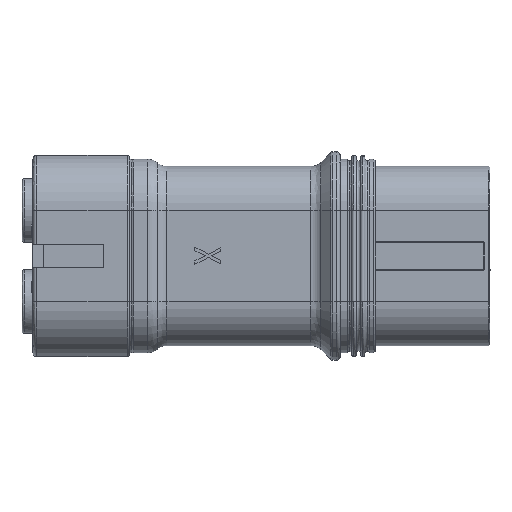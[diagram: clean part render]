
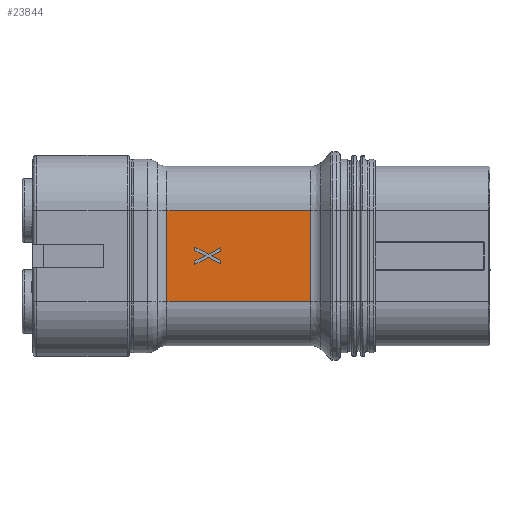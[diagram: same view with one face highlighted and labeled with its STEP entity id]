
A CAD part, left-side view. The second image highlights one B-rep face of the part: STEP entity #23844.
In plain terms, the highlighted planar face has unit normal (-1, 0, 0).
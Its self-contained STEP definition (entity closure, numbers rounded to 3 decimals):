
#103 = DIRECTION ( 'NONE',  ( 0., 0., -1. ) ) ;
#170 = CARTESIAN_POINT ( 'NONE',  ( -16.997, 38.977, -0.568 ) ) ;
#286 = DIRECTION ( 'NONE',  ( 0., 0.906, 0.424 ) ) ;
#548 = VERTEX_POINT ( 'NONE', #18449 ) ;
#574 = DIRECTION ( 'NONE',  ( 0., 0., -1. ) ) ;
#603 = EDGE_CURVE ( 'NONE', #20843, #4244, #12912, .T. ) ;
#865 = LINE ( 'NONE', #14750, #7441 ) ;
#1553 = VECTOR ( 'NONE', #286, 1000. ) ;
#1794 = EDGE_CURVE ( 'NONE', #19304, #2044, #23932, .T. ) ;
#2044 = VERTEX_POINT ( 'NONE', #17217 ) ;
#2201 = CARTESIAN_POINT ( 'NONE',  ( -16.997, 42.477, -1.161 ) ) ;
#2237 = VECTOR ( 'NONE', #103, 1000. ) ;
#2442 = CARTESIAN_POINT ( 'NONE',  ( -16.997, 46.289, -6.25 ) ) ;
#2987 = EDGE_CURVE ( 'NONE', #9734, #27642, #865, .T. ) ;
#3196 = VECTOR ( 'NONE', #31067, 1000. ) ;
#3767 = CARTESIAN_POINT ( 'NONE',  ( -16.997, 38.977, -6.25 ) ) ;
#4244 = VERTEX_POINT ( 'NONE', #14128 ) ;
#4259 = ORIENTED_EDGE ( 'NONE', *, *, #12428, .F. ) ;
#4277 = LINE ( 'NONE', #33371, #11753 ) ;
#4520 = CARTESIAN_POINT ( 'NONE',  ( -16.997, 42.477, 0.722 ) ) ;
#5415 = LINE ( 'NONE', #7433, #34417 ) ;
#5438 = DIRECTION ( 'NONE',  ( 0., -0.9, -0.437 ) ) ;
#5607 = CARTESIAN_POINT ( 'NONE',  ( -16.997, 40.635, -0.199 ) ) ;
#5716 = CARTESIAN_POINT ( 'NONE',  ( -16.997, 41.044, 0.026 ) ) ;
#5798 = PLANE ( 'NONE',  #16411 ) ;
#5918 = DIRECTION ( 'NONE',  ( 1., 0., 0. ) ) ;
#6301 = CARTESIAN_POINT ( 'NONE',  ( -16.997, 46.289, 6.25 ) ) ;
#6589 = VECTOR ( 'NONE', #574, 1000. ) ;
#7306 = LINE ( 'NONE', #3767, #21416 ) ;
#7433 = CARTESIAN_POINT ( 'NONE',  ( -16.997, 63.117, -6.25 ) ) ;
#7441 = VECTOR ( 'NONE', #17596, 1000. ) ;
#7792 = ORIENTED_EDGE ( 'NONE', *, *, #13450, .F. ) ;
#7846 = LINE ( 'NONE', #19277, #22835 ) ;
#8384 = CARTESIAN_POINT ( 'NONE',  ( -16.997, 26.646, -6.25 ) ) ;
#8655 = VERTEX_POINT ( 'NONE', #9643 ) ;
#8663 = LINE ( 'NONE', #28843, #22780 ) ;
#8982 = LINE ( 'NONE', #170, #1553 ) ;
#9296 = VERTEX_POINT ( 'NONE', #8384 ) ;
#9464 = VECTOR ( 'NONE', #20735, 1000. ) ;
#9643 = CARTESIAN_POINT ( 'NONE',  ( -16.997, 38.977, -1.059 ) ) ;
#9734 = VERTEX_POINT ( 'NONE', #2201 ) ;
#10543 = LINE ( 'NONE', #28082, #2237 ) ;
#10850 = CARTESIAN_POINT ( 'NONE',  ( -16.997, 40.635, 0.251 ) ) ;
#11476 = VERTEX_POINT ( 'NONE', #4520 ) ;
#11753 = VECTOR ( 'NONE', #30429, 1000. ) ;
#12119 = VERTEX_POINT ( 'NONE', #5716 ) ;
#12346 = ORIENTED_EDGE ( 'NONE', *, *, #21297, .F. ) ;
#12428 = EDGE_CURVE ( 'NONE', #11476, #12119, #7846, .T. ) ;
#12594 = DIRECTION ( 'NONE',  ( 0., 0.886, 0.463 ) ) ;
#12912 = LINE ( 'NONE', #10850, #27852 ) ;
#13144 = DIRECTION ( 'NONE',  ( 0., -1., 0. ) ) ;
#13218 = LINE ( 'NONE', #22246, #28159 ) ;
#13450 = EDGE_CURVE ( 'NONE', #28181, #25585, #8982, .T. ) ;
#14128 = CARTESIAN_POINT ( 'NONE',  ( -16.997, 42.477, 1.213 ) ) ;
#14330 = VERTEX_POINT ( 'NONE', #26349 ) ;
#14427 = ORIENTED_EDGE ( 'NONE', *, *, #32196, .F. ) ;
#14684 = CARTESIAN_POINT ( 'NONE',  ( -16.997, 38.977, -0.568 ) ) ;
#14750 = CARTESIAN_POINT ( 'NONE',  ( -16.997, 42.477, -1.161 ) ) ;
#15377 = ORIENTED_EDGE ( 'NONE', *, *, #27638, .F. ) ;
#15535 = FACE_OUTER_BOUND ( 'NONE', #16778, .T. ) ;
#16411 = AXIS2_PLACEMENT_3D ( 'NONE', #22806, #5918, #25599 ) ;
#16495 = CARTESIAN_POINT ( 'NONE',  ( -16.997, 38.977, 1.111 ) ) ;
#16748 = CARTESIAN_POINT ( 'NONE',  ( -16.997, 63.117, 6.25 ) ) ;
#16778 = EDGE_LOOP ( 'NONE', ( #24950, #14427, #29457, #25642 ) ) ;
#16974 = ORIENTED_EDGE ( 'NONE', *, *, #2987, .F. ) ;
#17022 = LINE ( 'NONE', #31839, #9464 ) ;
#17217 = CARTESIAN_POINT ( 'NONE',  ( -16.997, 26.646, 6.25 ) ) ;
#17596 = DIRECTION ( 'NONE',  ( 0., -0.886, 0.463 ) ) ;
#18449 = CARTESIAN_POINT ( 'NONE',  ( -16.997, 38.977, 0.619 ) ) ;
#18556 = VERTEX_POINT ( 'NONE', #16495 ) ;
#19277 = CARTESIAN_POINT ( 'NONE',  ( -16.997, 42.477, 0.722 ) ) ;
#19304 = VERTEX_POINT ( 'NONE', #6301 ) ;
#19400 = EDGE_CURVE ( 'NONE', #12119, #14330, #17022, .T. ) ;
#19479 = CARTESIAN_POINT ( 'NONE',  ( -16.997, 42.477, -6.25 ) ) ;
#20300 = CARTESIAN_POINT ( 'NONE',  ( -16.997, 40.635, 0.251 ) ) ;
#20439 = ORIENTED_EDGE ( 'NONE', *, *, #20709, .F. ) ;
#20709 = EDGE_CURVE ( 'NONE', #4244, #11476, #25148, .T. ) ;
#20735 = DIRECTION ( 'NONE',  ( 0., 0.9, -0.437 ) ) ;
#20843 = VERTEX_POINT ( 'NONE', #20300 ) ;
#21297 = EDGE_CURVE ( 'NONE', #27642, #8655, #13218, .T. ) ;
#21367 = EDGE_CURVE ( 'NONE', #14330, #9734, #10543, .T. ) ;
#21416 = VECTOR ( 'NONE', #23441, 1000. ) ;
#21450 = LINE ( 'NONE', #30906, #35460 ) ;
#21517 = EDGE_CURVE ( 'NONE', #19304, #35869, #28121, .T. ) ;
#21933 = ORIENTED_EDGE ( 'NONE', *, *, #28482, .F. ) ;
#22246 = CARTESIAN_POINT ( 'NONE',  ( -16.997, 40.635, -0.199 ) ) ;
#22293 = DIRECTION ( 'NONE',  ( 0., 0., -1. ) ) ;
#22780 = VECTOR ( 'NONE', #31651, 1000. ) ;
#22806 = CARTESIAN_POINT ( 'NONE',  ( -16.997, 63.117, -6.25 ) ) ;
#22835 = VECTOR ( 'NONE', #5438, 1000. ) ;
#23441 = DIRECTION ( 'NONE',  ( 0., 0., 1. ) ) ;
#23729 = ORIENTED_EDGE ( 'NONE', *, *, #603, .F. ) ;
#23844 = ADVANCED_FACE ( 'NONE', ( #15535, #30458 ), #5798, .F. ) ;
#23932 = LINE ( 'NONE', #16748, #30492 ) ;
#24950 = ORIENTED_EDGE ( 'NONE', *, *, #21517, .T. ) ;
#25148 = LINE ( 'NONE', #19479, #31689 ) ;
#25585 = VERTEX_POINT ( 'NONE', #27072 ) ;
#25599 = DIRECTION ( 'NONE',  ( 0., 0., -1. ) ) ;
#25605 = LINE ( 'NONE', #28252, #3196 ) ;
#25642 = ORIENTED_EDGE ( 'NONE', *, *, #1794, .F. ) ;
#26349 = CARTESIAN_POINT ( 'NONE',  ( -16.997, 42.477, -0.67 ) ) ;
#27072 = CARTESIAN_POINT ( 'NONE',  ( -16.997, 40.246, 0.026 ) ) ;
#27144 = EDGE_CURVE ( 'NONE', #2044, #9296, #8663, .T. ) ;
#27524 = EDGE_CURVE ( 'NONE', #18556, #20843, #4277, .T. ) ;
#27599 = ORIENTED_EDGE ( 'NONE', *, *, #21367, .F. ) ;
#27638 = EDGE_CURVE ( 'NONE', #25585, #548, #21450, .T. ) ;
#27642 = VERTEX_POINT ( 'NONE', #5607 ) ;
#27704 = DIRECTION ( 'NONE',  ( 0., -0.888, -0.46 ) ) ;
#27807 = EDGE_CURVE ( 'NONE', #548, #18556, #7306, .T. ) ;
#27852 = VECTOR ( 'NONE', #12594, 1000. ) ;
#28082 = CARTESIAN_POINT ( 'NONE',  ( -16.997, 42.477, -6.25 ) ) ;
#28121 = LINE ( 'NONE', #34317, #6589 ) ;
#28159 = VECTOR ( 'NONE', #27704, 1000. ) ;
#28181 = VERTEX_POINT ( 'NONE', #14684 ) ;
#28252 = CARTESIAN_POINT ( 'NONE',  ( -16.997, 38.977, -6.25 ) ) ;
#28482 = EDGE_CURVE ( 'NONE', #8655, #28181, #25605, .T. ) ;
#28843 = CARTESIAN_POINT ( 'NONE',  ( -16.997, 26.646, -6.25 ) ) ;
#29457 = ORIENTED_EDGE ( 'NONE', *, *, #27144, .F. ) ;
#29906 = DIRECTION ( 'NONE',  ( 0., 1., 0. ) ) ;
#30418 = EDGE_LOOP ( 'NONE', ( #16974, #27599, #31698, #4259, #20439, #23729, #30566, #36342, #15377, #7792, #21933, #12346 ) ) ;
#30429 = DIRECTION ( 'NONE',  ( 0., 0.888, -0.46 ) ) ;
#30458 = FACE_BOUND ( 'NONE', #30418, .T. ) ;
#30492 = VECTOR ( 'NONE', #13144, 1000. ) ;
#30566 = ORIENTED_EDGE ( 'NONE', *, *, #27524, .F. ) ;
#30906 = CARTESIAN_POINT ( 'NONE',  ( -16.997, 40.246, 0.026 ) ) ;
#31067 = DIRECTION ( 'NONE',  ( 0., 0., 1. ) ) ;
#31651 = DIRECTION ( 'NONE',  ( 0., 0., -1. ) ) ;
#31689 = VECTOR ( 'NONE', #22293, 1000. ) ;
#31698 = ORIENTED_EDGE ( 'NONE', *, *, #19400, .F. ) ;
#31839 = CARTESIAN_POINT ( 'NONE',  ( -16.997, 41.044, 0.026 ) ) ;
#32196 = EDGE_CURVE ( 'NONE', #9296, #35869, #5415, .T. ) ;
#33371 = CARTESIAN_POINT ( 'NONE',  ( -16.997, 38.977, 1.111 ) ) ;
#33735 = DIRECTION ( 'NONE',  ( 0., -0.906, 0.424 ) ) ;
#34317 = CARTESIAN_POINT ( 'NONE',  ( -16.997, 46.289, -6.25 ) ) ;
#34417 = VECTOR ( 'NONE', #29906, 1000. ) ;
#35460 = VECTOR ( 'NONE', #33735, 1000. ) ;
#35869 = VERTEX_POINT ( 'NONE', #2442 ) ;
#36342 = ORIENTED_EDGE ( 'NONE', *, *, #27807, .F. ) ;
